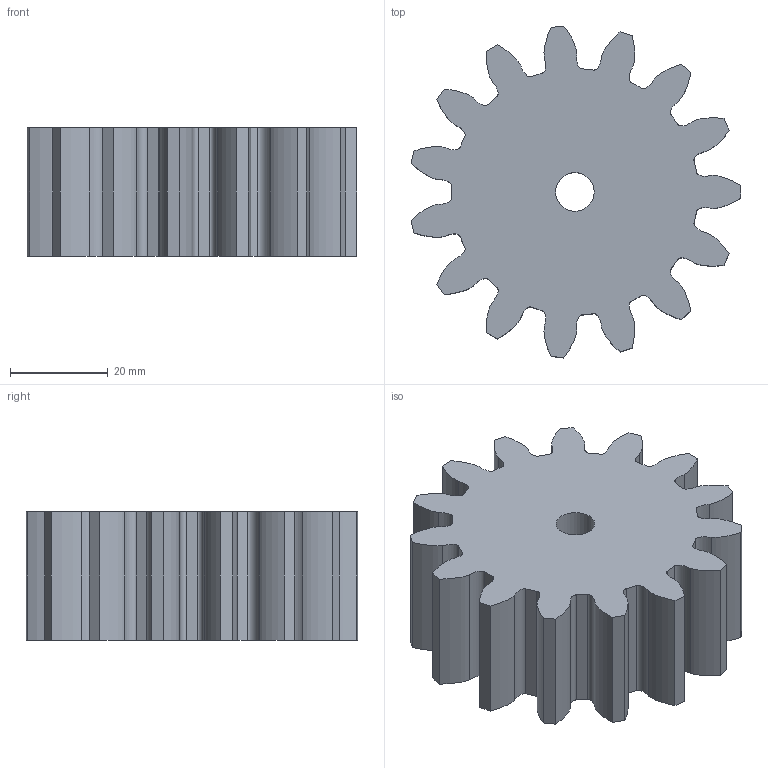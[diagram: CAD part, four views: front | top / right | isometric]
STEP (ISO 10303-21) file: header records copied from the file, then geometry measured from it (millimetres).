
FILE_DESCRIPTION(('Mechanical CAD reference from nasji.com'),'2;1');
FILE_NAME('NASJI.step','',(''),(''),'','NASJI distribution','');
FILE_SCHEMA(('AUTOMOTIVE_DESIGN { 1 0 10303 214 1 1 1 1 }'));
Length unit declared in the file: millimetre
Products named in the file (1): Open CASCADE STEP translator 7.8 184
Bounding box: 67.48 x 67.85 x 26.3 mm (x, y, z)
Volume: 71170.8 mm3; surface area: 15840.5 mm2
Topology: 1 solids, 1 shells, 93 faces, 273 edges, 182 vertices
Faces by surface type: bspline 90, plane 2, cylinder 1
Full cylindrical faces by diameter (mm): 7.9 x1
Entity records: 6238 total; most frequent: CARTESIAN_POINT 3087, ORIENTED_EDGE 546, PCURVE 546, DEFINITIONAL_REPRESENTATION 546, B_SPLINE_CURVE_WITH_KNOTS 450, EDGE_CURVE 273, SURFACE_CURVE 272, VERTEX_POINT 182
